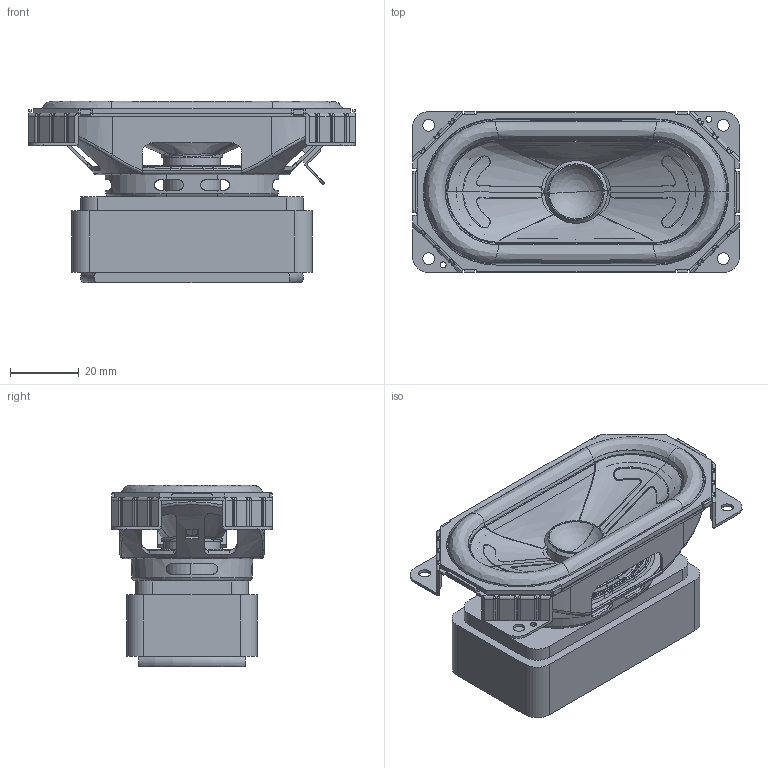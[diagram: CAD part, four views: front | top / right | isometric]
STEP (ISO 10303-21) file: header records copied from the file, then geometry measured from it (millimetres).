
FILE_DESCRIPTION((''),'2;1');
FILE_NAME('1191_ASM','2023-09-25T09:50:47',('54257'),(''),'CREO PARAMETRIC BY PTC INC, 2020053','CREO PARAMETRIC BY PTC INC, 2020053','');
FILE_SCHEMA(('CONFIG_CONTROL_DESIGN','SHAPE_APPEARANCE_LAYERS_GROUPS'));
Products named in the file (16): IFRM-C_5_1; TANBO022_1_1; ASM0001_ASM_1_ASM_ASM_1_ASM; CON-_1_1_1; F_1_1_1; C_ASM_1_ASM_ASM_1_ASM_ASM_ASM_1_ASM; CON-_ASM_ASM_1_ASM; ASM0001_ASM_ASM_ASM_1_ASM; 00_ASM_1_ASM; ST-TP-1616_1; ST-MG-703801_1; ST-BY-1609_1; ST-VC-1624_1; ST-VE-1806_1; HT-001_1; 1191_ASM
Assembly tree (15 placements, depth 6):
  1191_ASM
    00_ASM_1_ASM
      ASM0001_ASM_ASM_ASM_1_ASM
        ASM0001_ASM_1_ASM_ASM_1_ASM
          IFRM-C_5_1
          TANBO022_1_1
        CON-_ASM_ASM_1_ASM
          C_ASM_1_ASM_ASM_1_ASM_ASM_ASM_1_ASM
            CON-_1_1_1
            F_1_1_1
    ST-TP-1616_1
    ST-MG-703801_1
    ST-BY-1609_1
    ST-VC-1624_1
    ST-VE-1806_1
    HT-001_1
Bounding box: 95.3 x 46.8 x 52.9 mm (x, y, z)
Volume: 67146.7 mm3; surface area: 54287.8 mm2
Topology: 10 solids, 10 shells, 1280 faces, 3168 edges, 1904 vertices
Faces by surface type: bspline 670, plane 291, cylinder 248, torus 34, cone 18, sphere 12, extrusion 7
Entity records: 81667 total; most frequent: CARTESIAN_POINT 36991, ORIENTED_EDGE 6314, PRESENTATION_STYLE_ASSIGNMENT 4454, STYLED_ITEM 4439, DIRECTION 3642, CURVE_STYLE 3164, EDGE_CURVE 3157, VERTEX_POINT 1904
